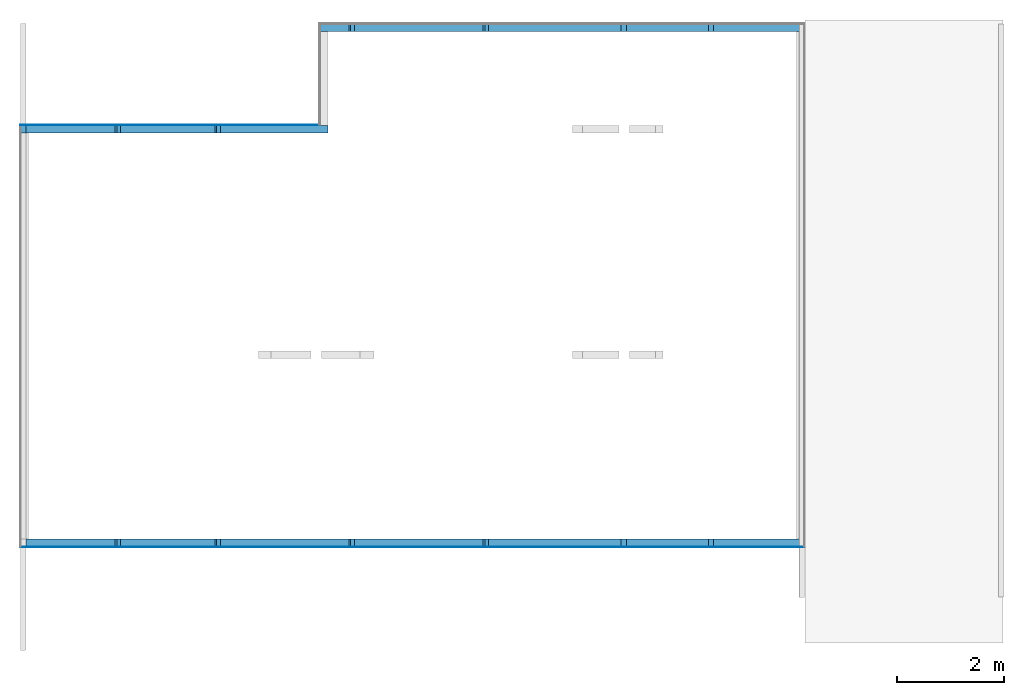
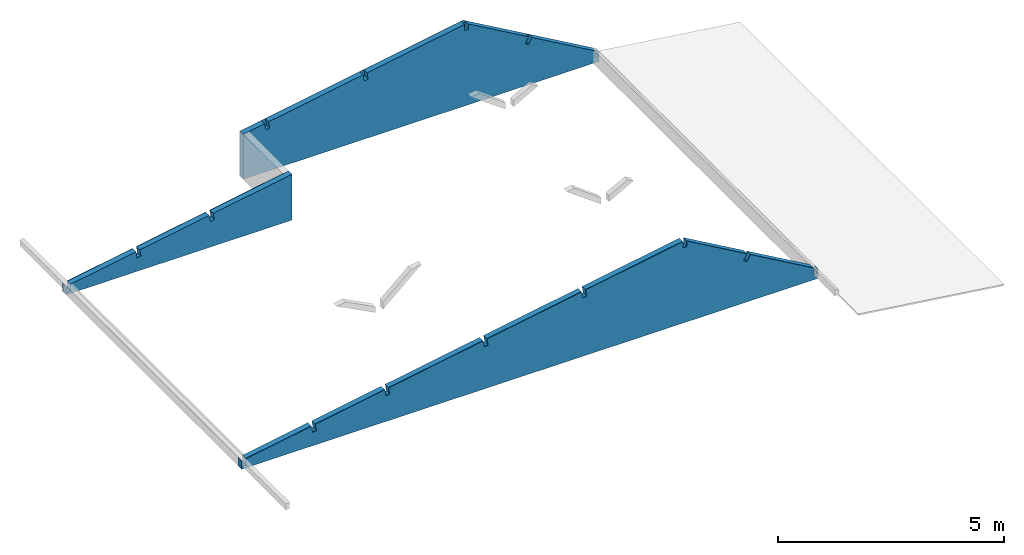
# One storey, part 2 of 2: 5 building element parts, 3 elements without a shape of their own.
"""IFC4 building model written with IfcOpenShell, lengths in centimetres."""

from ifc_helpers import new_model, entity, si_unit, converted_unit, derived_unit, direction, frame, origin, place, context, subcontext, project, spatial, polygons, material, type_object, element, aggregate, save


model = new_model("IFC4")

# Units and contexts
model_context = context("Model", 3, precision=0.001, world=origin(), true_north=direction((6.123233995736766e-17, 1.0)))
body_context = subcontext(model_context, "Body", "Model", "MODEL_VIEW")
ifc_project = project(units=[si_unit("LENGTHUNIT", "METRE", prefix="CENTI"), si_unit("AREAUNIT", "SQUARE_METRE"), converted_unit("PLANEANGLEUNIT", "DEGREE", entity("IfcPlaneAngleMeasure", 0.017453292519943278), si_unit("PLANEANGLEUNIT", "RADIAN"), dimensions=[0, 0, 0, 0, 0, 0, 0]), si_unit("VOLUMEUNIT", "CUBIC_METRE"), derived_unit("THERMALTRANSMITTANCEUNIT", [(si_unit("MASSUNIT", "GRAM", prefix="KILO"), 1), (si_unit("THERMODYNAMICTEMPERATUREUNIT", "KELVIN"), -1), (si_unit("TIMEUNIT", "SECOND"), -3)])], contexts=[model_context])

# Site, building, storey
site_placement = place(None, frame((-0.003347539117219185, 0.0, 0.0)))
site = spatial("IfcSite", under=ifc_project, at=site_placement, Name="Default", CompositionType="ELEMENT")
building_placement = place(site_placement, origin())
building = spatial("IfcBuilding", under=site, at=building_placement, CompositionType="ELEMENT")
storey_placement = place(building_placement, frame((0.0, 0.0, 331.0)))
storey = spatial("IfcBuildingStorey", under=building, at=storey_placement, Name="+3.00", CompositionType="ELEMENT", Elevation=331.00000000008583)

# Wall, building element parts
wall_type = type_object("IfcWallType", Name="Mur de base:MOB - 145+12 mm", PredefinedType="STANDARD")
wall_1_placement = place(storey_placement, frame((-6789.2866524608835, -2665.725884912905, -331.0)))
wall_1 = element("IfcWall", 1, at=wall_1_placement, inside=storey, type_object=wall_type, Name="Mur de base:MOB - 145+12 mm", ObjectType="Mur de base:MOB - 145+12 mm", PredefinedType="NOTDEFINED")
ifc_material_1 = material(Name="Panneau de grandes particules orientées", Category="Bois")
building_element_part_1_placement = place(wall_1_placement, origin())
building_element_part_1 = element("IfcBuildingElementPart", 2, at=building_element_part_1_placement, material=ifc_material_1, Name="Panneau de grandes particules orientées", context=body_context, shape_type="Tessellation", body=[
    polygons([(1470.400000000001, -7.849999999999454, 331.00000000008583), (4.778779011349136e-13, -7.849999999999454, 331.00000000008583), (4.739894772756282e-13, -6.650000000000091, 331.00000000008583), (1470.400000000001, -6.649999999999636, 331.00000000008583), (1470.400000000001, -7.849999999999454, 356.84663003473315), (1470.400000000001, -6.649999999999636, 356.84663003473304), (4.778779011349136e-13, -7.849999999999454, 353.6706889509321), (1.200000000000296, -7.849999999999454, 353.8810307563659), (1.2000000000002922, -6.650000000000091, 353.88103075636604), (-4.3550522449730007e-13, -6.650000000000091, 353.6706889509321), (1135.9816809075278, -7.849999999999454, 549.0410662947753), (1289.967350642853, -7.849999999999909, 460.54355495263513), (1289.967350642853, -6.649999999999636, 460.54355495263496), (1135.9816809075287, -6.649999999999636, 549.0410662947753), (870.7451328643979, -7.849999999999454, 488.0246774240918), (880.5949607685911, -7.850000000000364, 489.75120291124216), (880.5949607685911, -6.649999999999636, 489.75120291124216), (870.7451328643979, -6.649999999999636, 488.0246774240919), (867.6373869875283, -7.849999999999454, 505.7543676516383), (867.6373869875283, -6.6499999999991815, 505.7543676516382), (877.4872148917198, -7.850000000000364, 507.4808931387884), (877.4872148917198, -6.649999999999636, 507.4808931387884), (181.25875047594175, -7.849999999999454, 367.1681686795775), (191.10857838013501, -7.849999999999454, 368.89469416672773), (191.10857838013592, -6.649999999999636, 368.89469416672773), (181.25875047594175, -6.649999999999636, 367.1681686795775), (178.1510045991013, -7.849999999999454, 384.89785890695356), (178.1510045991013, -6.649999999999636, 384.89785890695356), (188.00083250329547, -7.849999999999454, 386.62438439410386), (188.00083250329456, -6.649999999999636, 386.62438439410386), (368.4024748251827, -7.849999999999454, 399.9716260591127), (378.25230272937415, -7.849999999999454, 401.6981515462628), (378.25230272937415, -6.650000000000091, 401.6981515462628), (368.4024748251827, -6.650000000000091, 399.9716260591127), (365.29472894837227, -7.849999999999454, 417.7013162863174), (365.29472894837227, -6.650000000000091, 417.7013162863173), (375.1445568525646, -7.849999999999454, 419.42784177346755), (375.1445568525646, -6.650000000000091, 419.42784177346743), (619.5397971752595, -7.849999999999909, 443.9921908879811), (629.3896250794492, -7.849999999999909, 445.71871637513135), (629.389625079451, -6.649999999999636, 445.71871637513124), (619.5397971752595, -6.649999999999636, 443.9921908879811), (616.4320512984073, -7.849999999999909, 461.7218811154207), (616.4320512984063, -6.649999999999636, 461.7218811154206), (626.2818792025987, -7.849999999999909, 463.4484066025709), (626.2818792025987, -6.649999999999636, 463.44840660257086), (1280.9982408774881, -7.849999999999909, 444.9373039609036), (1289.6683803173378, -7.849999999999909, 439.9544652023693), (1289.6683803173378, -6.649999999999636, 439.9544652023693), (1280.9982408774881, -6.649999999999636, 444.9373039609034), (1298.6374900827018, -7.849999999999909, 455.56071619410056), (1298.6374900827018, -6.649999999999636, 455.5607161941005), (1125.9816809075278, -7.849999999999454, 533.9100000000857), (1135.9816809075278, -7.849999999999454, 533.9100000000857), (1135.9816809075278, -6.649999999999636, 533.9100000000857), (1125.9816809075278, -6.649999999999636, 533.9100000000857), (1125.9816809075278, -7.849999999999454, 551.0382053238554), (1125.9816809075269, -6.649999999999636, 551.0382053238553), (1459.6931362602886, -7.849999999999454, 363.0000000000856), (1459.1999999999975, -7.849999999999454, 363.0000000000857), (1459.1999999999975, -6.649999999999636, 363.0000000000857), (1459.6931362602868, -6.649999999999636, 363.0000000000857), (1459.1999999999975, -7.849999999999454, 345.00000000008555), (1469.1999999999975, -7.849999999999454, 345.00000000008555), (1469.1999999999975, -6.649999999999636, 345.00000000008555), (1459.1999999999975, -6.649999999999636, 345.00000000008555), (1469.1999999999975, -7.849999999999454, 357.53628520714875), (1469.1999999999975, -6.649999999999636, 357.53628520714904), (1.1999999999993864, -7.849999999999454, 338.00000000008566), (11.199999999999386, -7.849999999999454, 338.00000000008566), (11.199999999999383, -6.650000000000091, 338.00000000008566), (1.1999999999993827, -6.650000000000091, 338.00000000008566), (11.199999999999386, -7.849999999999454, 355.63387913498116), (11.199999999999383, -6.650000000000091, 355.633879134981)], [[[1, 2, 3, 4]], [[5, 1, 4, 6]], [[7, 8, 9, 10]], [[11, 12, 13, 14]], [[15, 16, 17, 18]], [[19, 15, 18, 20]], [[16, 21, 22, 17]], [[23, 24, 25, 26]], [[27, 23, 26, 28]], [[24, 29, 30, 25]], [[31, 32, 33, 34]], [[35, 31, 34, 36]], [[32, 37, 38, 33]], [[39, 40, 41, 42]], [[43, 39, 42, 44]], [[40, 45, 46, 41]], [[47, 48, 49, 50]], [[12, 47, 50, 13]], [[48, 51, 52, 49]], [[53, 54, 55, 56]], [[54, 11, 14, 55]], [[57, 53, 56, 58]], [[59, 60, 61, 62]], [[63, 64, 65, 66]], [[60, 63, 66, 61]], [[64, 67, 68, 65]], [[2, 7, 10, 3]], [[69, 70, 71, 72]], [[8, 69, 72, 9]], [[70, 73, 74, 71]], [[4, 3, 10, 9, 72, 71, 74, 28, 26, 25, 30, 36, 34, 33, 38, 44, 42, 41, 46, 20, 18, 17, 22, 58, 56, 55, 14, 13, 50, 49, 52, 62, 61, 66, 65, 68, 6]], [[2, 1, 5, 67, 64, 63, 60, 59, 51, 48, 47, 12, 11, 54, 53, 57, 21, 16, 15, 19, 45, 40, 39, 43, 37, 32, 31, 35, 29, 24, 23, 27, 73, 70, 69, 8, 7]], [[51, 59, 62, 52]], [[67, 5, 6, 68]], [[73, 27, 28, 74]], [[29, 35, 36, 30]], [[37, 43, 44, 38]], [[45, 19, 20, 46]], [[21, 57, 58, 22]]], closed=True),
])
ifc_material_2 = material(Name="Structure, couche de solives/chevrons en bois d'oeuvre", Category="Divers")
building_element_part_2_placement = place(wall_1_placement, origin())
building_element_part_2 = element("IfcBuildingElementPart", 3, at=building_element_part_2_placement, material=ifc_material_2, Name="Structure, couche de solives/chevrons en bois d'oeuvre", context=body_context, shape_type="Tessellation", body=[
    polygons([(4.739894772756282e-13, -6.650000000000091, 331.00000000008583), (1470.400000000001, -6.649999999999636, 331.00000000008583), (1470.400000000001, -6.649999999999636, 356.84663003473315), (1469.1999999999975, -6.649999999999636, 357.53628520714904), (1469.1999999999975, -6.649999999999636, 345.00000000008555), (1459.1999999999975, -6.649999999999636, 345.00000000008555), (1459.1999999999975, -6.649999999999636, 363.0000000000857), (1459.6931362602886, -6.649999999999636, 363.0000000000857), (1298.6374900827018, -6.649999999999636, 455.5607161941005), (1289.6683803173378, -6.649999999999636, 439.9544652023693), (1280.9982408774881, -6.649999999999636, 444.9373039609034), (1289.967350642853, -6.649999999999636, 460.54355495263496), (1135.9816809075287, -6.649999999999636, 549.0410662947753), (1135.9816809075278, -6.649999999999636, 533.9100000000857), (1125.9816809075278, -6.649999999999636, 533.9100000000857), (1125.9816809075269, -6.649999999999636, 551.0382053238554), (877.4872148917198, -6.649999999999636, 507.4808931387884), (880.5949607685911, -6.649999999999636, 489.75120291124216), (870.7451328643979, -6.649999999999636, 488.0246774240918), (867.6373869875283, -6.6499999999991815, 505.7543676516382), (626.2818792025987, -6.649999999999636, 463.44840660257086), (629.389625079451, -6.649999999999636, 445.71871637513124), (619.5397971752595, -6.649999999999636, 443.9921908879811), (616.4320512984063, -6.649999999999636, 461.7218811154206), (375.1445568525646, -6.650000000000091, 419.42784177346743), (378.25230272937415, -6.650000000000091, 401.6981515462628), (368.4024748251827, -6.650000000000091, 399.9716260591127), (365.29472894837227, -6.650000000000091, 417.7013162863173), (188.00083250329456, -6.649999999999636, 386.62438439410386), (191.10857838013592, -6.649999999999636, 368.89469416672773), (181.25875047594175, -6.649999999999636, 367.1681686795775), (178.1510045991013, -6.649999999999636, 384.89785890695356), (11.199999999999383, -6.650000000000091, 355.633879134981), (11.199999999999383, -6.650000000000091, 338.00000000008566), (1.1999999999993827, -6.650000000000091, 338.00000000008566), (1.2000000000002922, -6.650000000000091, 353.88103075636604), (-4.3550522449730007e-13, -6.650000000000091, 353.6706889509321), (1470.400000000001, 7.849999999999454, 331.00000000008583), (1454.7000000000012, 7.849999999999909, 331.00000000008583), (15.700000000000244, 7.850000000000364, 331.00000000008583), (4.270043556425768e-13, 7.850000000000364, 331.00000000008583), (4.270043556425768e-13, 7.850000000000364, 353.6706889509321), (1.1999999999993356, 7.850000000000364, 353.8810307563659), (1.1999999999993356, 7.850000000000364, 338.00000000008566), (11.199999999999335, 7.850000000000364, 338.00000000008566), (11.199999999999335, 7.850000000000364, 355.63387913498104), (15.700000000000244, 7.850000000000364, 356.42266090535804), (178.15100459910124, 7.850000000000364, 384.89785890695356), (181.2587504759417, 7.850000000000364, 367.1681686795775), (191.10857838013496, 7.850000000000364, 368.89469416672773), (188.0008325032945, 7.850000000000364, 386.62438439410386), (365.29472894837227, 7.849999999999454, 417.7013162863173), (368.4024748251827, 7.850000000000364, 399.9716260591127), (378.25230272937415, 7.850000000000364, 401.6981515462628), (375.1445568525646, 7.849999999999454, 419.4278417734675), (616.4320512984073, 7.849999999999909, 461.7218811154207), (619.5397971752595, 7.849999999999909, 443.9921908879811), (629.389625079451, 7.849999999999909, 445.71871637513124), (626.2818792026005, 7.849999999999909, 463.4484066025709), (867.6373869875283, 7.850000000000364, 505.7543676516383), (870.7451328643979, 7.850000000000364, 488.0246774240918), (880.5949607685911, 7.850000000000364, 489.75120291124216), (877.4872148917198, 7.850000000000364, 507.4808931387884), (1125.9816809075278, 7.850000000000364, 551.0382053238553), (1125.9816809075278, 7.850000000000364, 533.9100000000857), (1135.9816809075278, 7.850000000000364, 533.9100000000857), (1135.9816809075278, 7.849999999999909, 549.0410662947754), (1289.967350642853, 7.849999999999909, 460.5435549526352), (1280.9982408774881, 7.849999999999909, 444.9373039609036), (1289.6683803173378, 7.849999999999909, 439.9544652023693), (1298.6374900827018, 7.849999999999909, 455.5607161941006), (1454.7000000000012, 7.849999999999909, 365.8696185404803), (1459.6931362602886, 7.849999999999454, 363.0000000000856), (1459.1999999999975, 7.849999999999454, 363.0000000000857), (1459.1999999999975, 7.849999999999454, 345.00000000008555), (1469.1999999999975, 7.849999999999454, 345.00000000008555), (1469.1999999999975, 7.849999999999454, 357.53628520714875), (1470.400000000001, 7.849999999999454, 356.84663003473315)], [[[1, 2, 3, 4, 5, 6, 7, 8, 9, 10, 11, 12, 13, 14, 15, 16, 17, 18, 19, 20, 21, 22, 23, 24, 25, 26, 27, 28, 29, 30, 31, 32, 33, 34, 35, 36, 37]], [[38, 39, 40, 41, 42, 43, 44, 45, 46, 47, 48, 49, 50, 51, 52, 53, 54, 55, 56, 57, 58, 59, 60, 61, 62, 63, 64, 65, 66, 67, 68, 69, 70, 71, 72, 73, 74, 75, 76, 77, 78]], [[39, 38, 2, 1, 41, 40]], [[38, 78, 3, 2]], [[43, 42, 37, 36]], [[68, 67, 13, 12]], [[62, 61, 19, 18]], [[61, 60, 20, 19]], [[63, 62, 18, 17]], [[50, 49, 31, 30]], [[49, 48, 32, 31]], [[51, 50, 30, 29]], [[54, 53, 27, 26]], [[53, 52, 28, 27]], [[55, 54, 26, 25]], [[58, 57, 23, 22]], [[57, 56, 24, 23]], [[59, 58, 22, 21]], [[70, 69, 11, 10]], [[69, 68, 12, 11]], [[71, 70, 10, 9]], [[66, 65, 15, 14]], [[67, 66, 14, 13]], [[65, 64, 16, 15]], [[74, 73, 8, 7]], [[76, 75, 6, 5]], [[75, 74, 7, 6]], [[77, 76, 5, 4]], [[42, 41, 1, 37]], [[45, 44, 35, 34]], [[44, 43, 36, 35]], [[46, 45, 34, 33]], [[72, 71, 9, 8, 73]], [[78, 77, 4, 3]], [[47, 46, 33, 32, 48]], [[52, 51, 29, 28]], [[56, 55, 25, 24]], [[60, 59, 21, 20]], [[64, 63, 17, 16]]], closed=True),
])
aggregate(wall_1, [building_element_part_1, building_element_part_2])

# Wall, building element part
wall_2_placement = place(storey_placement, frame((-5318.886652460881, -1700.025884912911, -331.0), z_axis=(0.0, 0.0, 1.0), x_axis=(-1.0, 0.0, 0.0)))
wall_2 = element("IfcWall", 4, at=wall_2_placement, inside=storey, type_object=wall_type, Name="Mur de base:MOB - 145+12 mm", ObjectType="Mur de base:MOB - 145+12 mm", PredefinedType="NOTDEFINED")
building_element_part_3_placement = place(wall_2_placement, origin())
building_element_part_3 = element("IfcBuildingElementPart", 5, at=building_element_part_3_placement, material=ifc_material_2, Name="Structure, couche de solives/chevrons en bois d'oeuvre", context=body_context, shape_type="Tessellation", body=[
    polygons([(1.2000000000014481, -6.649999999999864, 331.00000000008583), (908.2000000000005, -6.650000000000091, 331.00000000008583), (908.2000000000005, -6.650000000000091, 452.2158247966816), (339.4183190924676, -6.649999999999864, 551.9146295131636), (10.70686373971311, -6.649999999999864, 363.0000000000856), (11.200000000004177, -6.649999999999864, 363.0000000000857), (11.200000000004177, -6.649999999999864, 345.00000000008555), (1.2000000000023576, -6.649999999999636, 345.0000000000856), (908.2000000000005, 7.849999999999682, 331.00000000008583), (893.7000000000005, 7.849999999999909, 331.00000000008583), (15.70000000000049, 7.850000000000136, 331.00000000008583), (1.2000000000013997, 7.850000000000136, 331.00000000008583), (1.2000000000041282, 7.850000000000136, 345.0000000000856), (11.200000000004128, 7.850000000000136, 345.00000000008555), (11.200000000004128, 7.850000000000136, 363.0000000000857), (10.70686373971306, 7.850000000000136, 363.0000000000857), (15.70000000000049, 7.850000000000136, 365.8696185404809), (171.76250991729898, 7.849999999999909, 455.56071619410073), (180.73161968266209, 7.850000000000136, 439.95446520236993), (189.40175912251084, 7.850000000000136, 444.93730396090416), (180.43264935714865, 7.849999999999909, 460.54355495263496), (334.4183190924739, 7.850000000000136, 549.041066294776), (334.4183190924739, 7.850000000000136, 533.9100000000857), (344.4183190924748, 7.850000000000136, 533.9100000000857), (344.4183190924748, 7.850000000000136, 551.0382053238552), (592.9127851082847, 7.850000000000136, 507.4808931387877), (589.8050392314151, 7.850000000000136, 489.75120291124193), (599.6548671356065, 7.850000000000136, 488.0246774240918), (602.762613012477, 7.850000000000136, 505.7543676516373), (844.1181207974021, 7.849999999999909, 463.44840660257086), (841.0103749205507, 7.849999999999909, 445.7187163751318), (850.860202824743, 7.849999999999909, 443.99219088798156), (853.9679487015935, 7.850000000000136, 461.7218811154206), (893.7000000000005, 7.849999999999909, 454.7574549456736), (908.2000000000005, 7.849999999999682, 452.21582479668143), (339.4183190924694, -6.575000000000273, 551.9146295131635), (334.41831909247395, -6.575000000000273, 549.0410662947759), (180.43264935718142, -6.574999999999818, 460.5435549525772), (171.76250991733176, -6.574999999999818, 455.560716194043), (344.41831909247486, -6.575000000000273, 551.0382053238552), (853.9679487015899, -6.574999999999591, 461.72188111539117), (844.1181207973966, -6.574999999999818, 463.44840660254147), (602.7626130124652, -6.5750000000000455, 505.75436765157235), (592.9127851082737, -6.5750000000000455, 507.4808931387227), (841.0103749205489, -6.574999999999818, 445.7187163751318), (850.8602028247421, -6.574999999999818, 443.99219088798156), (589.8050392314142, -6.5750000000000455, 489.75120291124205), (599.6548671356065, -6.5750000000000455, 488.0246774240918), (180.7316196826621, -6.574999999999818, 439.95446520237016), (189.40175912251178, -6.574999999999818, 444.9373039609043), (334.41831909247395, -6.575000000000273, 533.9100000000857), (344.41831909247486, -6.575000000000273, 533.9100000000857), (1.2000000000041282, 7.850000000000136, 357.53628520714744), (1.2000000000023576, -6.649999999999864, 357.5362852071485)], [[[1, 2, 3, 4, 5, 6, 7, 8]], [[9, 10, 11, 12, 13, 14, 15, 16, 17, 18, 19, 20, 21, 22, 23, 24, 25, 26, 27, 28, 29, 30, 31, 32, 33, 34, 35]], [[10, 9, 2, 1, 12, 11]], [[17, 16, 5, 4, 36, 37, 22, 21, 38, 39, 18]], [[26, 25, 40, 36, 4, 3, 35, 34, 33, 41, 42, 30, 29, 43, 44]], [[32, 31, 45, 46]], [[33, 32, 46, 41]], [[31, 30, 42, 45]], [[42, 41, 46, 45]], [[28, 27, 47, 48]], [[29, 28, 48, 43]], [[27, 26, 44, 47]], [[44, 43, 48, 47]], [[20, 19, 49, 50]], [[21, 20, 50, 38]], [[19, 18, 39, 49]], [[39, 38, 50, 49]], [[24, 23, 51, 52]], [[23, 22, 37, 51]], [[37, 36, 40, 52, 51]], [[25, 24, 52, 40]], [[16, 15, 6, 5]], [[14, 13, 8, 7]], [[15, 14, 7, 6]], [[13, 53, 54, 8]], [[53, 13, 12, 1, 8, 54]], [[9, 35, 3, 2]]], closed=True),
])
aggregate(wall_2, [building_element_part_3])

# Wall, building element parts
wall_3_placement = place(storey_placement, frame((-6212.586652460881, -1890.0258849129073, -331.0), z_axis=(0.0, 0.0, 1.0), x_axis=(-1.0, 0.0, 0.0)))
wall_3 = element("IfcWall", 6, at=wall_3_placement, inside=storey, type_object=wall_type, Name="Mur de base:MOB - 145+12 mm", ObjectType="Mur de base:MOB - 145+12 mm", PredefinedType="NOTDEFINED")
building_element_part_4_placement = place(wall_3_placement, origin())
building_element_part_4 = element("IfcBuildingElementPart", 7, at=building_element_part_4_placement, material=ifc_material_1, Name="Panneau de grandes particules orientées", context=body_context, shape_type="Tessellation", body=[
    polygons([(15.700000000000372, -7.849999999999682, 331.00000000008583), (14.500000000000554, -7.849999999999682, 331.00000000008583), (14.50000000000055, -6.649999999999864, 331.00000000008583), (576.7000000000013, -6.650000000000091, 331.00000000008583), (576.7000000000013, -7.849999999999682, 331.00000000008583), (576.7000000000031, -6.650000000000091, 353.67068895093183), (576.7000000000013, -7.849999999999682, 353.67068895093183), (575.5000000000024, -7.849999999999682, 353.88103075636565), (575.5000000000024, -6.650000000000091, 353.8810307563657), (575.5000000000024, -6.650000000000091, 338.00000000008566), (575.5000000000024, -7.849999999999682, 338.00000000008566), (565.5000000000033, -7.849999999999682, 338.00000000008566), (565.5000000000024, -6.650000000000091, 338.00000000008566), (565.5000000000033, -6.650000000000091, 355.6338791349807), (565.5000000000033, -7.849999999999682, 355.6338791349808), (561.0000000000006, -6.650000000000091, 356.422660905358), (398.5489954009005, -6.650000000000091, 384.89785890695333), (398.5489954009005, -7.849999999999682, 384.89785890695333), (561.0000000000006, -7.849999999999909, 356.422660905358), (395.44124952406, -7.849999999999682, 367.1681686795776), (385.5914216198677, -7.849999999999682, 368.89469416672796), (388.6991674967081, -7.849999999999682, 386.62438439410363), (211.40527105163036, -7.849999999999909, 417.701316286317), (208.29752517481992, -7.849999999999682, 399.97162605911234), (198.44769727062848, -7.849999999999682, 401.6981515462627), (201.555443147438, -7.849999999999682, 419.4278417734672), (15.700000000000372, -7.849999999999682, 452.0054829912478), (14.500000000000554, -7.849999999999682, 452.2158247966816), (14.500000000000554, -7.849999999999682, 356.422660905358), (14.50000000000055, -6.649999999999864, 356.422660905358), (14.50000000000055, -6.649999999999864, 452.2158247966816), (201.555443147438, -6.650000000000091, 419.4278417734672), (198.44769727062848, -6.650000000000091, 401.6981515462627), (208.29752517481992, -6.650000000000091, 399.97162605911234), (211.40527105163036, -6.650000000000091, 417.701316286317), (388.6991674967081, -6.650000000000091, 386.6243843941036), (385.5914216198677, -6.650000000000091, 368.89469416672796), (395.44124952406, -6.650000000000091, 367.1681686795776)], [[[1, 2, 3, 4, 5]], [[5, 4, 6, 7]], [[8, 7, 6, 9]], [[8, 9, 10, 11]], [[12, 11, 10, 13]], [[12, 13, 14, 15]], [[15, 14, 16, 17, 18, 19]], [[2, 1, 5, 7, 8, 11, 12, 15, 19, 18, 20, 21, 22, 23, 24, 25, 26, 27, 28, 29]], [[4, 3, 30, 31, 32, 33, 34, 35, 36, 37, 38, 17, 16, 14, 13, 10, 9, 6]], [[2, 29, 28, 31, 30, 3]], [[20, 18, 17, 38]], [[21, 20, 38, 37]], [[22, 21, 37, 36]], [[23, 22, 36, 35]], [[24, 23, 35, 34]], [[25, 24, 34, 33]], [[26, 25, 33, 32]], [[27, 26, 32, 31, 28]]], closed=True),
])
building_element_part_5_placement = place(wall_3_placement, origin())
building_element_part_5 = element("IfcBuildingElementPart", 8, at=building_element_part_5_placement, material=ifc_material_2, Name="Structure, couche de solives/chevrons en bois d'oeuvre", context=body_context, shape_type="Tessellation", body=[
    polygons([(1.4593562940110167e-12, -6.650000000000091, 331.00000000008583), (575.5000000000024, -6.650000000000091, 331.00000000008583), (575.5000000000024, -6.650000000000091, 338.00000000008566), (565.5000000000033, -6.650000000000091, 338.00000000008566), (565.5000000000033, -6.650000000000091, 355.6338791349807), (561.0000000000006, -6.650000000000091, 356.422660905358), (398.5489954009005, -6.650000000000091, 384.8978589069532), (395.44124952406, -6.650000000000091, 367.1681686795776), (385.5914216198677, -6.650000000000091, 368.89469416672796), (388.6991674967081, -6.650000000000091, 386.6243843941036), (211.40527105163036, -6.650000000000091, 417.701316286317), (208.29752517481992, -6.650000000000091, 399.97162605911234), (198.44769727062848, -6.650000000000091, 401.6981515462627), (201.555443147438, -6.650000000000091, 419.4278417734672), (1.4593562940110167e-12, -6.650000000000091, 454.7574549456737), (5.498615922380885e-13, -6.650000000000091, 356.422660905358), (1.4145746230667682e-12, 7.850000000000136, 331.00000000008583), (561.0000000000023, 7.849999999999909, 331.00000000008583), (575.5000000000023, 7.850000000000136, 331.00000000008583), (575.5000000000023, 7.849999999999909, 338.00000000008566), (575.5000000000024, -6.650000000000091, 353.8810307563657), (575.5000000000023, 7.849999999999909, 353.88103075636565), (565.5000000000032, 7.850000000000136, 338.00000000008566), (565.5000000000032, 7.850000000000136, 355.6338791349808), (561.0000000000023, 7.849999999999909, 356.4226609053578), (398.5489954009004, 7.849999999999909, 384.89785890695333), (1.4145746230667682e-12, 7.850000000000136, 454.75745494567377), (5.050799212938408e-13, 7.849999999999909, 356.422660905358), (201.55544314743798, 7.850000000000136, 419.4278417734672), (198.44769727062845, 7.850000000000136, 401.6981515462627), (208.2975251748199, 7.850000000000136, 399.97162605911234), (211.40527105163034, 7.849999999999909, 417.7013162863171), (388.69916749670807, 7.850000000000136, 386.62438439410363), (385.5914216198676, 7.850000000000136, 368.89469416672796), (395.44124952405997, 7.850000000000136, 367.1681686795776)], [[[1, 2, 3, 4, 5, 6, 7, 8, 9, 10, 11, 12, 13, 14, 15, 16]], [[2, 1, 17, 18, 19]], [[20, 3, 21, 22]], [[4, 3, 20, 23]], [[5, 4, 23, 24]], [[6, 5, 24, 25, 26, 7]], [[1, 16, 15, 27, 28, 17]], [[19, 18, 17, 28, 27, 29, 30, 31, 32, 33, 34, 35, 26, 25, 24, 23, 20]], [[19, 20, 22, 21, 3, 2]], [[8, 7, 26, 35]], [[9, 8, 35, 34]], [[10, 9, 34, 33]], [[11, 10, 33, 32]], [[12, 11, 32, 31]], [[13, 12, 31, 30]], [[14, 13, 30, 29]], [[15, 14, 29, 27]]], closed=True),
])
aggregate(wall_3, [building_element_part_4, building_element_part_5])

save(model, "model.ifc")
